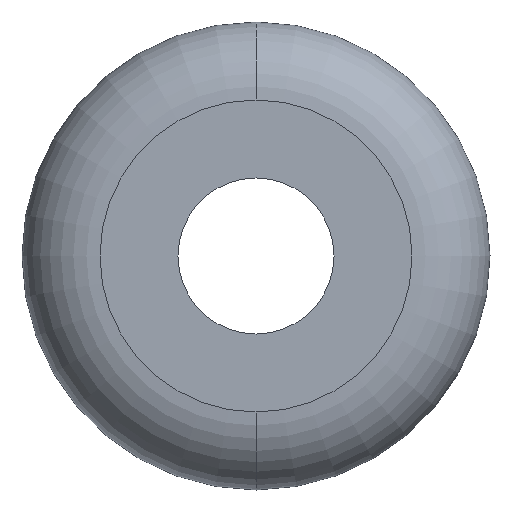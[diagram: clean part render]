
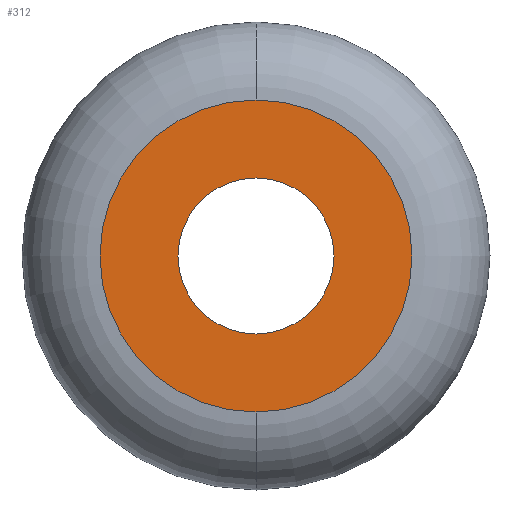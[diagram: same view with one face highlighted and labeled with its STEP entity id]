
A CAD part, front view. The second image highlights one B-rep face of the part: STEP entity #312.
In plain terms, the highlighted planar face has unit normal (0, -1, 0).
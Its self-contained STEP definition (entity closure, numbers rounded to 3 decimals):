
#17 = CARTESIAN_POINT ( 'NONE',  ( 0., -3.5, -6. ) ) ;
#49 = CIRCLE ( 'NONE', #50, 3. ) ;
#50 = AXIS2_PLACEMENT_3D ( 'NONE', #51, #52, #53 ) ;
#51 = CARTESIAN_POINT ( 'NONE',  ( 0., -3.5, 0. ) ) ;
#52 = DIRECTION ( 'NONE',  ( 0., 1., 0. ) ) ;
#53 = DIRECTION ( 'NONE',  ( 0., 0., 1. ) ) ;
#59 = FACE_BOUND ( 'NONE', #296, .T. ) ;
#60 = FACE_OUTER_BOUND ( 'NONE', #401, .T. ) ;
#61 = PLANE ( 'NONE',  #62 ) ;
#62 = AXIS2_PLACEMENT_3D ( 'NONE', #63, #64, #65 ) ;
#63 = CARTESIAN_POINT ( 'NONE',  ( -6., -3.5, 0. ) ) ;
#64 = DIRECTION ( 'NONE',  ( 0., -1., 0. ) ) ;
#65 = DIRECTION ( 'NONE',  ( 0., 0., -1. ) ) ;
#73 = CIRCLE ( 'NONE', #74, 3. ) ;
#74 = AXIS2_PLACEMENT_3D ( 'NONE', #75, #76, #77 ) ;
#75 = CARTESIAN_POINT ( 'NONE',  ( 0., -3.5, 0. ) ) ;
#76 = DIRECTION ( 'NONE',  ( 0., 1., 0. ) ) ;
#77 = DIRECTION ( 'NONE',  ( 0., 0., 1. ) ) ;
#86 = CIRCLE ( 'NONE', #87, 6. ) ;
#87 = AXIS2_PLACEMENT_3D ( 'NONE', #88, #90, #91 ) ;
#88 = CARTESIAN_POINT ( 'NONE',  ( 0., -3.5, 0. ) ) ;
#89 = ORIENTED_EDGE ( 'NONE', *, *, #313, .T. ) ;
#90 = DIRECTION ( 'NONE',  ( 0., 1., 0. ) ) ;
#91 = DIRECTION ( 'NONE',  ( 0., 0., 1. ) ) ;
#142 = VERTEX_POINT ( 'NONE', #381 ) ;
#149 = CARTESIAN_POINT ( 'NONE',  ( 0., -3.5, 3. ) ) ;
#252 = EDGE_CURVE ( 'NONE', #142, #329, #49, .T. ) ;
#257 = EDGE_CURVE ( 'NONE', #408, #295, #86, .T. ) ;
#258 = ORIENTED_EDGE ( 'NONE', *, *, #252, .T. ) ;
#264 = ORIENTED_EDGE ( 'NONE', *, *, #257, .F. ) ;
#295 = VERTEX_POINT ( 'NONE', #380 ) ;
#296 = EDGE_LOOP ( 'NONE', ( #89, #258 ) ) ;
#299 = ORIENTED_EDGE ( 'NONE', *, *, #403, .F. ) ;
#312 = ADVANCED_FACE ( 'NONE', ( #59, #60 ), #61, .T. ) ;
#313 = EDGE_CURVE ( 'NONE', #329, #142, #73, .T. ) ;
#329 = VERTEX_POINT ( 'NONE', #149 ) ;
#380 = CARTESIAN_POINT ( 'NONE',  ( 0., -3.5, 6. ) ) ;
#381 = CARTESIAN_POINT ( 'NONE',  ( 0., -3.5, -3. ) ) ;
#387 = CIRCLE ( 'NONE', #388, 6. ) ;
#388 = AXIS2_PLACEMENT_3D ( 'NONE', #389, #390, #391 ) ;
#389 = CARTESIAN_POINT ( 'NONE',  ( 0., -3.5, 0. ) ) ;
#390 = DIRECTION ( 'NONE',  ( 0., 1., 0. ) ) ;
#391 = DIRECTION ( 'NONE',  ( 0., 0., 1. ) ) ;
#401 = EDGE_LOOP ( 'NONE', ( #299, #264 ) ) ;
#403 = EDGE_CURVE ( 'NONE', #295, #408, #387, .T. ) ;
#408 = VERTEX_POINT ( 'NONE', #17 ) ;
